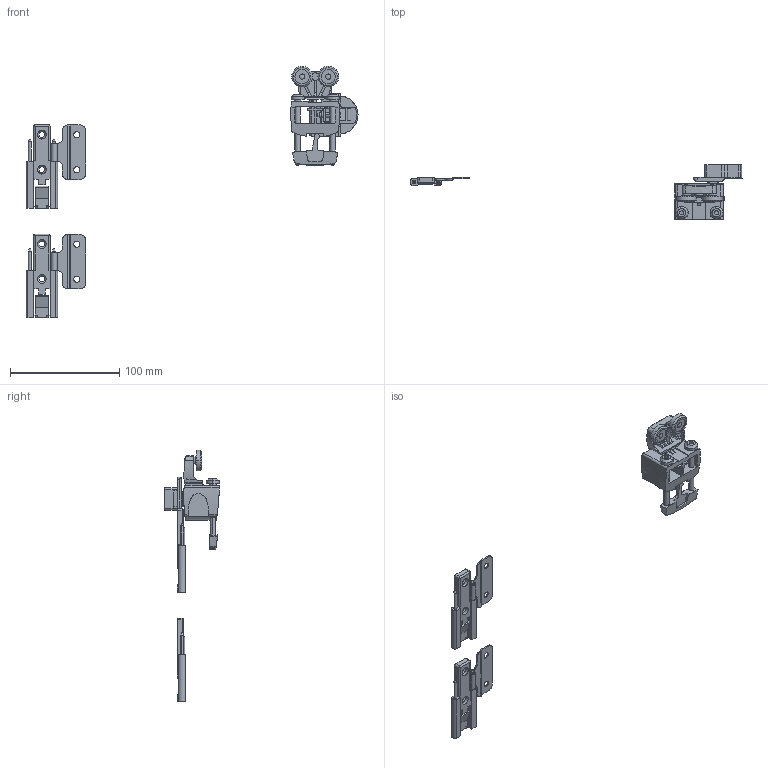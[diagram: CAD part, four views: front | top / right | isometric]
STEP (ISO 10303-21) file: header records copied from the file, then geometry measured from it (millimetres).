
FILE_DESCRIPTION( ( '' ), '1' );
FILE_NAME( 'D:/temp/hettich_stp/hettich/4_folding_sliding/4.4_folding_door/10kg_wl_780_wl_780_alu/set_wl_780_right/9080213.stp', '2013-02-26T10:20:13', ( '' ), ( '' ), ' ', ' ', ' ' );
FILE_SCHEMA( ( 'automotive_design' ) );
Length unit declared in the file: millimetre
Products named in the file (5): 1; 2; 3; 4; 5
Bounding box: 303.7 x 49.98 x 230.1 mm (x, y, z)
Volume: 64420.6 mm3; surface area: 44872.4 mm2
Topology: 5 solids, 5 shells, 734 faces, 2059 edges, 1352 vertices
Faces by surface type: plane 383, cylinder 299, cone 36, torus 14, sphere 2
Entity records: 48084 total; most frequent: CARTESIAN_POINT 5538, STYLED_ITEM 4148, PRESENTATION_STYLE_ASSIGNMENT 4148, COLOUR_RGB 4148, DIRECTION 4136, ORIENTED_EDGE 4114, EDGE_CURVE 2057, CURVE_STYLE 2057
